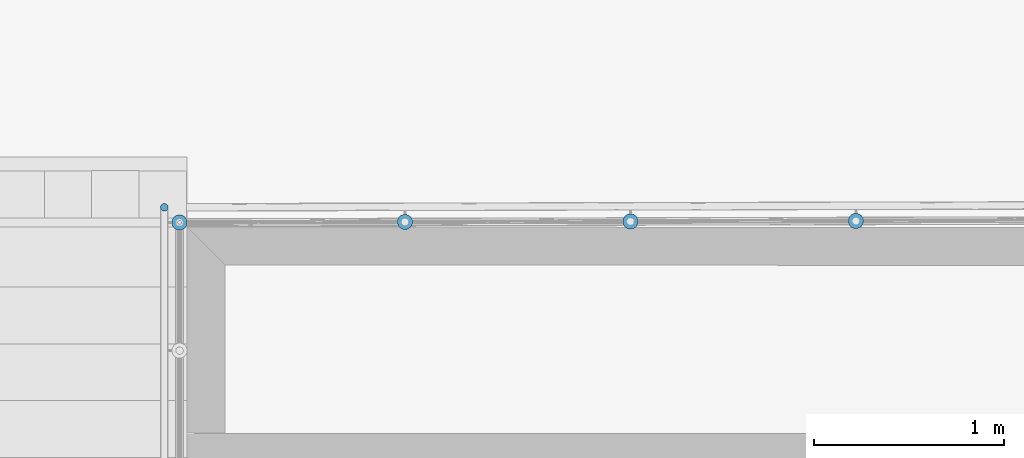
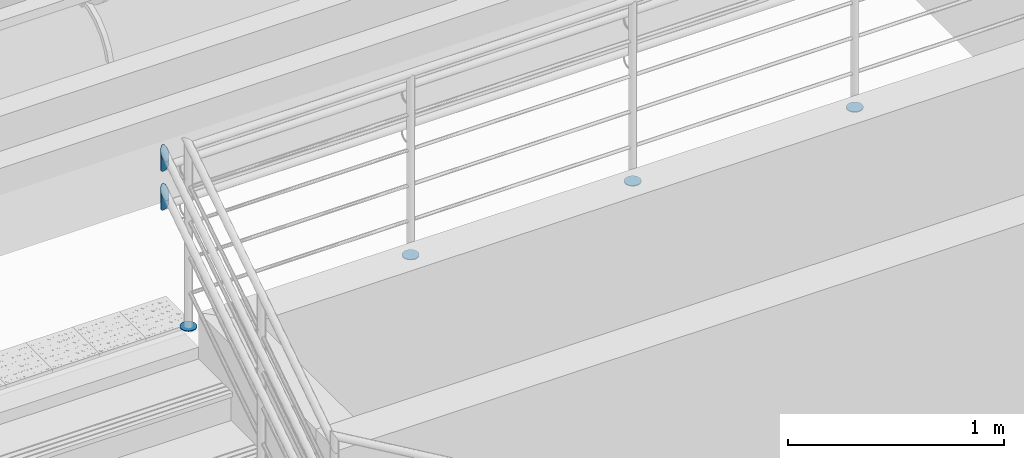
# One storey, part 125 of 237: 6 building element parts, 1 element without a shape of its own.
"""IFC2X3 building model written with IfcOpenShell, lengths in millimetres."""

from ifc_helpers import new_model, entity, si_unit, converted_unit, derived_unit, money_unit, direction, frame, origin_with_axes, place, context, subcontext, project, spatial, faceted_brep, material, type_object, element, aggregate, save


model = new_model("IFC2X3")

# Units and contexts
model_context = context("Model", 3, precision=0.01, world=origin_with_axes(), true_north=direction((0.0, 1.0)))
body_context = subcontext(model_context, "Body", "Model", "MODEL_VIEW")
ifc_project = project(units=[si_unit("LENGTHUNIT", "METRE", prefix="MILLI"), si_unit("AREAUNIT", "SQUARE_METRE"), si_unit("VOLUMEUNIT", "CUBIC_METRE"), converted_unit("PLANEANGLEUNIT", "DEGREE", entity("IfcPlaneAngleMeasure", 0.0174532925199), si_unit("PLANEANGLEUNIT", "RADIAN"), dimensions=[0, 0, 0, 0, 0, 0, 0]), money_unit("USD"), converted_unit("TIMEUNIT", "Year", entity("IfcTimeMeasure", 31556926.0), si_unit("TIMEUNIT", "SECOND"), dimensions=[0, 0, 1, 0, 0, 0, 0]), si_unit("MASSUNIT", "GRAM", prefix="KILO"), si_unit("THERMODYNAMICTEMPERATUREUNIT", "DEGREE_CELSIUS"), si_unit("LUMINOUSINTENSITYUNIT", "LUMEN"), si_unit("ENERGYUNIT", "JOULE", prefix="MEGA"), derived_unit("THERMALCONDUCTANCEUNIT", [(si_unit("POWERUNIT", "WATT"), 1), (si_unit("LENGTHUNIT", "METRE"), -1), (si_unit("THERMODYNAMICTEMPERATUREUNIT", "KELVIN"), -1)]), derived_unit("SPECIFICHEATCAPACITYUNIT", [(si_unit("ENERGYUNIT", "JOULE"), 1), (si_unit("MASSUNIT", "GRAM", prefix="KILO"), -1), (si_unit("THERMODYNAMICTEMPERATUREUNIT", "KELVIN"), -1)]), derived_unit("MASSDENSITYUNIT", [(si_unit("MASSUNIT", "GRAM", prefix="KILO"), 1), (si_unit("VOLUMEUNIT", "CUBIC_METRE"), -1)])], contexts=[model_context])

# Site, building, storey
site_placement = place(None, origin_with_axes())
site = spatial("IfcSite", under=ifc_project, at=site_placement, Name="Local", CompositionType="ELEMENT")
building_placement = place(site_placement, origin_with_axes())
building = spatial("IfcBuilding", under=site, at=building_placement, Name="Construção", CompositionType="ELEMENT")
storey_placement = place(building_placement, origin_with_axes())
storey = spatial("IfcBuildingStorey", under=building, at=storey_placement, Name="Pavimento Térreo", CompositionType="ELEMENT", Elevation=0.0)

# Railing, building element parts
railing_type = type_object("IfcRailingType", Name="Tipo de Guarda-Corpo", PredefinedType="NOTDEFINED")
railing_placement = place(storey_placement, frame((84562.8908804, 21657.2175927, -4868.39227091), z_axis=(0.0, 0.0, 1.0), x_axis=(1.0, 0.0, 0.0)))
railing = element("IfcRailing", 1, at=railing_placement, inside=storey, type_object=railing_type, Name="Guarda-Corpo - 002", PredefinedType="NOTDEFINED")
ifc_material_1 = material(Name="Alumínio")
building_element_part_1_placement = place(railing_placement, origin_with_axes())
building_element_part_1 = element("IfcBuildingElementPart", 2, at=building_element_part_1_placement, material=ifc_material_1, Name="Alumínio", context=body_context, shape_type="Brep", body=[
    faceted_brep([(-3833.93138467, 2066.86880841, 1374.42107865), (-3840.87731178, 2066.26111853, 1374.42107865), (-3840.87731178, 2066.26111853, 1379.42107865), (-3833.93138467, 2066.86880841, 1379.42107865), (-3826.98545757, 2066.26111853, 1374.42107865), (-3820.25057894, 2064.45651324, 1374.42107865), (-3813.93138467, 2061.50982456, 1374.42107865), (-3808.21988028, 2057.51058613, 1374.42107865), (-3803.28960695, 2052.58031279, 1374.42107865), (-3799.29036852, 2046.86880841, 1374.42107865), (-3796.34367984, 2040.54961414, 1374.42107865), (-3794.53907455, 2033.81473551, 1374.42107865), (-3793.93138467, 2026.86880841, 1374.42107865), (-3794.53907455, 2019.9228813, 1374.42107865), (-3796.34367984, 2013.18800267, 1374.42107865), (-3799.29036852, 2006.86880841, 1374.42107865), (-3803.28960695, 2001.15730402, 1374.42107865), (-3808.21988028, 1996.22703068, 1374.42107865), (-3813.93138467, 1992.22779226, 1374.42107865), (-3820.25057894, 1989.28110358, 1374.42107865), (-3826.98545757, 1987.47649829, 1374.42107865), (-3833.93138467, 1986.86880841, 1374.42107865), (-3840.87731178, 1987.47649829, 1374.42107865), (-3847.6121904, 1989.28110358, 1374.42107865), (-3853.93138467, 1992.22779226, 1374.42107865), (-3859.64288906, 1996.22703068, 1374.42107865), (-3864.5731624, 2001.15730402, 1374.42107865), (-3868.57240082, 2006.86880841, 1374.42107865), (-3871.5190895, 2013.18800267, 1374.42107865), (-3873.32369479, 2019.9228813, 1374.42107865), (-3873.93138467, 2026.86880841, 1374.42107865), (-3873.32369479, 2033.81473551, 1374.42107865), (-3871.5190895, 2040.54961414, 1374.42107865), (-3868.57240082, 2046.86880841, 1374.42107865), (-3864.5731624, 2052.58031279, 1374.42107865), (-3859.64288906, 2057.51058613, 1374.42107865), (-3853.93138467, 2061.50982456, 1374.42107865), (-3847.6121904, 2064.45651324, 1374.42107865), (-3847.6121904, 2064.45651324, 1379.42107865), (-3853.93138467, 2061.50982456, 1379.42107865), (-3859.64288906, 2057.51058613, 1379.42107865), (-3864.5731624, 2052.58031279, 1379.42107865), (-3868.57240082, 2046.86880841, 1379.42107865), (-3871.5190895, 2040.54961414, 1379.42107865), (-3873.32369479, 2033.81473551, 1379.42107865), (-3873.93138467, 2026.86880841, 1379.42107865), (-3873.32369479, 2019.9228813, 1379.42107865), (-3871.5190895, 2013.18800267, 1379.42107865), (-3868.57240082, 2006.86880841, 1379.42107865), (-3864.5731624, 2001.15730402, 1379.42107865), (-3859.64288906, 1996.22703068, 1379.42107865), (-3853.93138467, 1992.22779226, 1379.42107865), (-3847.6121904, 1989.28110358, 1379.42107865), (-3840.87731178, 1987.47649829, 1379.42107865), (-3833.93138467, 1986.86880841, 1379.42107865), (-3826.98545757, 1987.47649829, 1379.42107865), (-3820.25057894, 1989.28110358, 1379.42107865), (-3813.93138467, 1992.22779226, 1379.42107865), (-3808.21988028, 1996.22703068, 1379.42107865), (-3803.28960695, 2001.15730402, 1379.42107865), (-3799.29036852, 2006.86880841, 1379.42107865), (-3796.34367984, 2013.18800267, 1379.42107865), (-3794.53907455, 2019.9228813, 1379.42107865), (-3793.93138467, 2026.86880841, 1379.42107865), (-3794.53907455, 2033.81473551, 1379.42107865), (-3796.34367984, 2040.54961414, 1379.42107865), (-3799.29036852, 2046.86880841, 1379.42107865), (-3803.28960695, 2052.58031279, 1379.42107865), (-3808.21988028, 2057.51058613, 1379.42107865), (-3813.93138467, 2061.50982456, 1379.42107865), (-3820.25057894, 2064.45651324, 1379.42107865), (-3826.98545757, 2066.26111853, 1379.42107865)], [[[0, 1, 2, 3]], [[0, 4, 5, 6, 7, 8, 9, 10, 11, 12, 13, 14, 15, 16, 17, 18, 19, 20, 21, 22, 23, 24, 25, 26, 27, 28, 29, 30, 31, 32, 33, 34, 35, 36, 37, 1]], [[1, 37, 38, 2]], [[3, 2, 38, 39, 40, 41, 42, 43, 44, 45, 46, 47, 48, 49, 50, 51, 52, 53, 54, 55, 56, 57, 58, 59, 60, 61, 62, 63, 64, 65, 66, 67, 68, 69, 70, 71]], [[4, 0, 3, 71]], [[5, 4, 71, 70]], [[6, 5, 70, 69]], [[7, 6, 69, 68]], [[8, 7, 68, 67]], [[9, 8, 67, 66]], [[10, 9, 66, 65]], [[11, 10, 65, 64]], [[12, 11, 64, 63]], [[13, 12, 63, 62]], [[14, 13, 62, 61]], [[15, 14, 61, 60]], [[16, 15, 60, 59]], [[17, 16, 59, 58]], [[18, 17, 58, 57]], [[19, 18, 57, 56]], [[20, 19, 56, 55]], [[21, 20, 55, 54]], [[22, 21, 54, 53]], [[23, 22, 53, 52]], [[24, 23, 52, 51]], [[25, 24, 51, 50]], [[26, 25, 50, 49]], [[27, 26, 49, 48]], [[28, 27, 48, 47]], [[29, 28, 47, 46]], [[30, 29, 46, 45]], [[31, 30, 45, 44]], [[32, 31, 44, 43]], [[33, 32, 43, 42]], [[34, 33, 42, 41]], [[35, 34, 41, 40]], [[36, 35, 40, 39]], [[37, 36, 39, 38]]]),
])
ifc_material_2 = material(Name="Aço - Inoxidável")
building_element_part_2_placement = place(railing_placement, origin_with_axes())
building_element_part_2 = element("IfcBuildingElementPart", 3, at=building_element_part_2_placement, material=ifc_material_2, Name="Aço - Inoxidável", context=body_context, shape_type="Brep", body=[
    faceted_brep([(-3894.23522961, 2103.22144845, 2061.07060766), (-3893.93138467, 2106.69441201, 2061.38188453), (-3893.93138467, 2106.69441201, 2115.88387212), (-3894.23522961, 2103.22144845, 2109.45602414), (-3894.23522961, 2110.16737556, 2061.08575884), (-3895.13753226, 2099.85400914, 2060.1613862), (-3896.6108766, 2096.69441201, 2058.68184641), (-3898.61049581, 2093.83865981, 2056.67694334), (-3901.07563248, 2091.37352315, 2054.20759496), (-3903.93138467, 2089.37390393, 2051.34883118), (-3907.09098181, 2087.90055959, 2048.18751407), (-3910.45842112, 2086.99825695, 2044.81969867), (-3913.93138467, 2086.69441201, 2041.34771434), (-3917.40434823, 2086.99825695, 2037.87705556), (-3920.77178754, 2087.90055959, 2034.51317655), (-3923.93138467, 2089.37390393, 2031.35828707), (-3926.78713687, 2091.37352315, 2028.50824684), (-3929.25227353, 2093.83865981, 2026.04965289), (-3931.25189275, 2096.69441201, 2024.05720835), (-3932.72523709, 2099.85400914, 2022.59145265), (-3933.62753973, 2103.22144845, 2021.69692202), (-3933.93138467, 2106.69441201, 2021.40079632), (-3933.62753973, 2110.16737556, 2021.7120732), (-3932.72523709, 2113.53481487, 2022.62129465), (-3931.25189275, 2116.69441201, 2024.10083444), (-3929.25227353, 2119.5501642, 2026.10573751), (-3926.78713687, 2122.01530087, 2028.57508589), (-3923.93138467, 2124.01492008, 2031.43384968), (-3920.77178754, 2125.48826442, 2034.59516678), (-3917.40434823, 2126.39056707, 2037.96298218), (-3913.93138467, 2126.69441201, 2041.43496652), (-3910.45842112, 2126.39056707, 2044.90562529), (-3907.09098181, 2125.48826442, 2048.2695043), (-3903.93138467, 2124.01492008, 2051.42439378), (-3901.07563248, 2122.01530087, 2054.27443401), (-3898.61049581, 2119.5501642, 2056.73302796), (-3896.6108766, 2116.69441201, 2058.7254725), (-3895.13753226, 2113.53481487, 2060.19122821), (-3894.23522961, 2110.16737556, 2122.3117201), (-3931.25189275, 2116.69441201, 2134.39212274), (-3932.72523709, 2113.53481487, 2128.54426118), (-3933.62753973, 2110.16737556, 2122.3117201), (-3933.93138467, 2106.69441201, 2115.88387212), (-3933.62753973, 2103.22144845, 2109.45602414), (-3932.72523709, 2099.85400914, 2103.22348306), (-3931.25189275, 2096.69441201, 2097.3756215), (-3929.25227353, 2093.83865981, 2092.09012377), (-3926.78713687, 2091.37352315, 2087.52758704), (-3923.93138467, 2089.37390393, 2083.82664169), (-3920.77178754, 2087.90055959, 2081.09973906), (-3917.40434823, 2086.99825695, 2079.42973471), (-3913.93138467, 2086.69441201, 2078.86737088), (-3910.45842112, 2086.99825695, 2079.42973471), (-3907.09098181, 2087.90055959, 2081.09973906), (-3903.93138467, 2089.37390393, 2083.82664169), (-3901.07563248, 2091.37352315, 2087.52758704), (-3898.61049581, 2093.83865981, 2092.09012377), (-3896.6108766, 2096.69441201, 2097.3756215), (-3895.13753226, 2099.85400914, 2103.22348306), (-3895.13753226, 2113.53481487, 2128.54426118), (-3896.6108766, 2116.69441201, 2134.39212274), (-3898.61049581, 2119.5501642, 2139.67762047), (-3901.07563248, 2122.01530087, 2144.2401572), (-3903.93138467, 2124.01492008, 2147.94110255), (-3907.09098181, 2125.48826442, 2150.66800518), (-3910.45842112, 2126.39056707, 2152.33800953), (-3913.93138467, 2126.69441201, 2152.90037336), (-3917.40434823, 2126.39056707, 2152.33800953), (-3920.77178754, 2125.48826442, 2150.66800518), (-3923.93138467, 2124.01492008, 2147.94110255), (-3926.78713687, 2122.01530087, 2144.2401572), (-3929.25227353, 2119.5501642, 2139.67762047)], [[[0, 1, 2, 3]], [[4, 1, 0, 5, 6, 7, 8, 9, 10, 11, 12, 13, 14, 15, 16, 17, 18, 19, 20, 21, 22, 23, 24, 25, 26, 27, 28, 29, 30, 31, 32, 33, 34, 35, 36, 37]], [[1, 4, 38, 2]], [[39, 40, 41, 42, 43, 44, 45, 46, 47, 48, 49, 50, 51, 52, 53, 54, 55, 56, 57, 58, 3, 2, 38, 59, 60, 61, 62, 63, 64, 65, 66, 67, 68, 69, 70, 71]], [[5, 0, 3, 58]], [[6, 5, 58, 57]], [[7, 6, 57, 56]], [[8, 7, 56, 55]], [[9, 8, 55, 54]], [[10, 9, 54, 53]], [[11, 10, 53, 52]], [[12, 11, 52, 51]], [[13, 12, 51, 50]], [[14, 13, 50, 49]], [[15, 14, 49, 48]], [[16, 15, 48, 47]], [[17, 16, 47, 46]], [[18, 17, 46, 45]], [[19, 18, 45, 44]], [[20, 19, 44, 43]], [[21, 20, 43, 42]], [[22, 21, 42, 41]], [[23, 22, 41, 40]], [[24, 23, 40, 39]], [[25, 24, 39, 71]], [[26, 25, 71, 70]], [[27, 26, 70, 69]], [[28, 27, 69, 68]], [[29, 28, 68, 67]], [[30, 29, 67, 66]], [[31, 30, 66, 65]], [[32, 31, 65, 64]], [[33, 32, 64, 63]], [[34, 33, 63, 62]], [[35, 34, 62, 61]], [[36, 35, 61, 60]], [[37, 36, 60, 59]], [[4, 37, 59, 38]]]),
])
building_element_part_3_placement = place(railing_placement, origin_with_axes())
building_element_part_3 = element("IfcBuildingElementPart", 4, at=building_element_part_3_placement, material=ifc_material_2, Name="Aço - Inoxidável", context=body_context, shape_type="Brep", body=[
    faceted_brep([(-3894.23522961, 2103.22144845, 2281.07060766), (-3893.93138467, 2106.69441201, 2281.38188453), (-3893.93138467, 2106.69441201, 2335.88387212), (-3894.23522961, 2103.22144845, 2329.45602414), (-3894.23522961, 2110.16737556, 2281.08575884), (-3895.13753226, 2099.85400914, 2280.1613862), (-3896.6108766, 2096.69441201, 2278.68184641), (-3898.61049581, 2093.83865981, 2276.67694334), (-3901.07563248, 2091.37352315, 2274.20759496), (-3903.93138467, 2089.37390393, 2271.34883118), (-3907.09098181, 2087.90055959, 2268.18751407), (-3910.45842112, 2086.99825695, 2264.81969867), (-3913.93138467, 2086.69441201, 2261.34771434), (-3917.40434823, 2086.99825695, 2257.87705556), (-3920.77178754, 2087.90055959, 2254.51317655), (-3923.93138467, 2089.37390393, 2251.35828707), (-3926.78713687, 2091.37352315, 2248.50824684), (-3929.25227353, 2093.83865981, 2246.04965289), (-3931.25189275, 2096.69441201, 2244.05720835), (-3932.72523709, 2099.85400914, 2242.59145265), (-3933.62753973, 2103.22144845, 2241.69692202), (-3933.93138467, 2106.69441201, 2241.40079632), (-3933.62753973, 2110.16737556, 2241.7120732), (-3932.72523709, 2113.53481487, 2242.62129465), (-3931.25189275, 2116.69441201, 2244.10083444), (-3929.25227353, 2119.5501642, 2246.10573751), (-3926.78713687, 2122.01530087, 2248.57508589), (-3923.93138467, 2124.01492008, 2251.43384968), (-3920.77178754, 2125.48826442, 2254.59516678), (-3917.40434823, 2126.39056707, 2257.96298218), (-3913.93138467, 2126.69441201, 2261.43496652), (-3910.45842112, 2126.39056707, 2264.90562529), (-3907.09098181, 2125.48826442, 2268.2695043), (-3903.93138467, 2124.01492008, 2271.42439378), (-3901.07563248, 2122.01530087, 2274.27443401), (-3898.61049581, 2119.5501642, 2276.73302796), (-3896.6108766, 2116.69441201, 2278.7254725), (-3895.13753226, 2113.53481487, 2280.19122821), (-3894.23522961, 2110.16737556, 2342.3117201), (-3931.25189275, 2116.69441201, 2354.39212274), (-3932.72523709, 2113.53481487, 2348.54426118), (-3933.62753973, 2110.16737556, 2342.3117201), (-3933.93138467, 2106.69441201, 2335.88387212), (-3933.62753973, 2103.22144845, 2329.45602414), (-3932.72523709, 2099.85400914, 2323.22348306), (-3931.25189275, 2096.69441201, 2317.3756215), (-3929.25227353, 2093.83865981, 2312.09012377), (-3926.78713687, 2091.37352315, 2307.52758704), (-3923.93138467, 2089.37390393, 2303.82664169), (-3920.77178754, 2087.90055959, 2301.09973906), (-3917.40434823, 2086.99825695, 2299.42973471), (-3913.93138467, 2086.69441201, 2298.86737088), (-3910.45842112, 2086.99825695, 2299.42973471), (-3907.09098181, 2087.90055959, 2301.09973906), (-3903.93138467, 2089.37390393, 2303.82664169), (-3901.07563248, 2091.37352315, 2307.52758704), (-3898.61049581, 2093.83865981, 2312.09012377), (-3896.6108766, 2096.69441201, 2317.3756215), (-3895.13753226, 2099.85400914, 2323.22348306), (-3895.13753226, 2113.53481487, 2348.54426118), (-3896.6108766, 2116.69441201, 2354.39212274), (-3898.61049581, 2119.5501642, 2359.67762047), (-3901.07563248, 2122.01530087, 2364.2401572), (-3903.93138467, 2124.01492008, 2367.94110255), (-3907.09098181, 2125.48826442, 2370.66800518), (-3910.45842112, 2126.39056707, 2372.33800953), (-3913.93138467, 2126.69441201, 2372.90037336), (-3917.40434823, 2126.39056707, 2372.33800953), (-3920.77178754, 2125.48826442, 2370.66800518), (-3923.93138467, 2124.01492008, 2367.94110255), (-3926.78713687, 2122.01530087, 2364.2401572), (-3929.25227353, 2119.5501642, 2359.67762047)], [[[0, 1, 2, 3]], [[4, 1, 0, 5, 6, 7, 8, 9, 10, 11, 12, 13, 14, 15, 16, 17, 18, 19, 20, 21, 22, 23, 24, 25, 26, 27, 28, 29, 30, 31, 32, 33, 34, 35, 36, 37]], [[1, 4, 38, 2]], [[39, 40, 41, 42, 43, 44, 45, 46, 47, 48, 49, 50, 51, 52, 53, 54, 55, 56, 57, 58, 3, 2, 38, 59, 60, 61, 62, 63, 64, 65, 66, 67, 68, 69, 70, 71]], [[5, 0, 3, 58]], [[6, 5, 58, 57]], [[7, 6, 57, 56]], [[8, 7, 56, 55]], [[9, 8, 55, 54]], [[10, 9, 54, 53]], [[11, 10, 53, 52]], [[12, 11, 52, 51]], [[13, 12, 51, 50]], [[14, 13, 50, 49]], [[15, 14, 49, 48]], [[16, 15, 48, 47]], [[17, 16, 47, 46]], [[18, 17, 46, 45]], [[19, 18, 45, 44]], [[20, 19, 44, 43]], [[21, 20, 43, 42]], [[22, 21, 42, 41]], [[23, 22, 41, 40]], [[24, 23, 40, 39]], [[25, 24, 39, 71]], [[26, 25, 71, 70]], [[27, 26, 70, 69]], [[28, 27, 69, 68]], [[29, 28, 68, 67]], [[30, 29, 67, 66]], [[31, 30, 66, 65]], [[32, 31, 65, 64]], [[33, 32, 64, 63]], [[34, 33, 63, 62]], [[35, 34, 62, 61]], [[36, 35, 61, 60]], [[37, 36, 60, 59]], [[4, 37, 59, 38]]]),
])
building_element_part_4_placement = place(railing_placement, origin_with_axes())
building_element_part_4 = element("IfcBuildingElementPart", 5, at=building_element_part_4_placement, material=ifc_material_1, Name="Alumínio", context=body_context, shape_type="Brep", body=[
    faceted_brep([(-2605.04516916, 2029.55065138, 1360.79438018), (-2605.6680159, 2036.49523577, 1360.79438018), (-2605.6680159, 2036.49523577, 1365.79438018), (-2605.04516916, 2029.55065138, 1365.79438018), (-2605.63769928, 2022.60341464, 1360.79438018), (-2607.42760254, 2015.8646138, 1360.79438018), (-2610.36049362, 2009.53900393, 1360.79438018), (-2614.34725813, 2003.81878548, 1360.79438018), (-2619.26676024, 1998.8777644, 1360.79438018), (-2624.96952337, 1994.8660711, 1360.79438018), (-2631.28227194, 1991.90559886, 1360.79438018), (-2638.01319628, 1990.08630014, 1360.79438018), (-2644.95778066, 1989.46345339, 1360.79438018), (-2651.90501741, 1990.05598351, 1360.79438018), (-2658.64381825, 1991.84588677, 1360.79438018), (-2664.96942812, 1994.77877786, 1360.79438018), (-2670.68964656, 1998.76554237, 1360.79438018), (-2675.63066765, 2003.68504448, 1360.79438018), (-2679.64236095, 2009.3878076, 1360.79438018), (-2682.60283318, 2015.70055617, 1360.79438018), (-2684.42213191, 2022.43148051, 1360.79438018), (-2685.04497866, 2029.3760649, 1360.79438018), (-2684.45244854, 2036.32330164, 1360.79438018), (-2682.66254528, 2043.06210248, 1360.79438018), (-2679.72965419, 2049.38771235, 1360.79438018), (-2675.74288968, 2055.1079308, 1360.79438018), (-2670.82338757, 2060.04895188, 1360.79438018), (-2665.12062445, 2064.06064518, 1360.79438018), (-2658.80787588, 2067.02111742, 1360.79438018), (-2652.07695154, 2068.84041614, 1360.79438018), (-2645.13236715, 2069.46326289, 1360.79438018), (-2638.1851304, 2068.87073277, 1360.79438018), (-2631.44632957, 2067.08082951, 1360.79438018), (-2625.1207197, 2064.14793842, 1360.79438018), (-2619.40050125, 2060.16117391, 1360.79438018), (-2614.45948016, 2055.24167181, 1360.79438018), (-2610.44778687, 2049.53890868, 1360.79438018), (-2607.48731463, 2043.22616011, 1360.79438018), (-2607.48731463, 2043.22616011, 1365.79438018), (-2610.44778687, 2049.53890868, 1365.79438018), (-2614.45948016, 2055.24167181, 1365.79438018), (-2619.40050125, 2060.16117391, 1365.79438018), (-2625.1207197, 2064.14793842, 1365.79438018), (-2631.44632957, 2067.08082951, 1365.79438018), (-2638.1851304, 2068.87073277, 1365.79438018), (-2645.13236715, 2069.46326289, 1365.79438018), (-2652.07695154, 2068.84041614, 1365.79438018), (-2658.80787588, 2067.02111742, 1365.79438018), (-2665.12062445, 2064.06064518, 1365.79438018), (-2670.82338757, 2060.04895188, 1365.79438018), (-2675.74288968, 2055.1079308, 1365.79438018), (-2679.72965419, 2049.38771235, 1365.79438018), (-2682.66254528, 2043.06210248, 1365.79438018), (-2684.45244854, 2036.32330164, 1365.79438018), (-2685.04497866, 2029.3760649, 1365.79438018), (-2684.42213191, 2022.43148051, 1365.79438018), (-2682.60283318, 2015.70055617, 1365.79438018), (-2679.64236095, 2009.3878076, 1365.79438018), (-2675.63066765, 2003.68504448, 1365.79438018), (-2670.68964656, 1998.76554237, 1365.79438018), (-2664.96942812, 1994.77877786, 1365.79438018), (-2658.64381825, 1991.84588677, 1365.79438018), (-2651.90501741, 1990.05598351, 1365.79438018), (-2644.95778066, 1989.46345339, 1365.79438018), (-2638.01319628, 1990.08630014, 1365.79438018), (-2631.28227194, 1991.90559886, 1365.79438018), (-2624.96952337, 1994.8660711, 1365.79438018), (-2619.26676024, 1998.8777644, 1365.79438018), (-2614.34725813, 2003.81878548, 1365.79438018), (-2610.36049362, 2009.53900393, 1365.79438018), (-2607.42760254, 2015.8646138, 1365.79438018), (-2605.63769928, 2022.60341464, 1365.79438018)], [[[0, 1, 2, 3]], [[0, 4, 5, 6, 7, 8, 9, 10, 11, 12, 13, 14, 15, 16, 17, 18, 19, 20, 21, 22, 23, 24, 25, 26, 27, 28, 29, 30, 31, 32, 33, 34, 35, 36, 37, 1]], [[1, 37, 38, 2]], [[3, 2, 38, 39, 40, 41, 42, 43, 44, 45, 46, 47, 48, 49, 50, 51, 52, 53, 54, 55, 56, 57, 58, 59, 60, 61, 62, 63, 64, 65, 66, 67, 68, 69, 70, 71]], [[4, 0, 3, 71]], [[5, 4, 71, 70]], [[6, 5, 70, 69]], [[7, 6, 69, 68]], [[8, 7, 68, 67]], [[9, 8, 67, 66]], [[10, 9, 66, 65]], [[11, 10, 65, 64]], [[12, 11, 64, 63]], [[13, 12, 63, 62]], [[14, 13, 62, 61]], [[15, 14, 61, 60]], [[16, 15, 60, 59]], [[17, 16, 59, 58]], [[18, 17, 58, 57]], [[19, 18, 57, 56]], [[20, 19, 56, 55]], [[21, 20, 55, 54]], [[22, 21, 54, 53]], [[23, 22, 53, 52]], [[24, 23, 52, 51]], [[25, 24, 51, 50]], [[26, 25, 50, 49]], [[27, 26, 49, 48]], [[28, 27, 48, 47]], [[29, 28, 47, 46]], [[30, 29, 46, 45]], [[31, 30, 45, 44]], [[32, 31, 44, 43]], [[33, 32, 43, 42]], [[34, 33, 42, 41]], [[35, 34, 41, 40]], [[36, 35, 40, 39]], [[37, 36, 39, 38]]]),
])
building_element_part_5_placement = place(railing_placement, origin_with_axes())
building_element_part_5 = element("IfcBuildingElementPart", 6, at=building_element_part_5_placement, material=ifc_material_1, Name="Alumínio", context=body_context, shape_type="Brep", body=[
    faceted_brep([(-1416.15885839, 2032.14520112, 1360.23497769), (-1416.78170514, 2039.0897855, 1360.23497769), (-1416.78170514, 2039.0897855, 1365.23497769), (-1416.15885839, 2032.14520112, 1365.23497769), (-1416.75138851, 2025.19796437, 1360.23497769), (-1418.54129177, 2018.45916354, 1360.23497769), (-1421.47418286, 2012.13355367, 1360.23497769), (-1425.46094737, 2006.41333522, 1360.23497769), (-1430.38044948, 2001.47231413, 1360.23497769), (-1436.0832126, 1997.46062083, 1360.23497769), (-1442.39596117, 1994.5001486, 1360.23497769), (-1449.12688551, 1992.68084987, 1360.23497769), (-1456.0714699, 1992.05800313, 1360.23497769), (-1463.01870665, 1992.65053325, 1360.23497769), (-1469.75750748, 1994.4404365, 1360.23497769), (-1476.08311735, 1997.37332759, 1360.23497769), (-1481.8033358, 2001.3600921, 1360.23497769), (-1486.74435689, 2006.27959421, 1360.23497769), (-1490.75605018, 2011.98235733, 1360.23497769), (-1493.71652242, 2018.2951059, 1360.23497769), (-1495.53582115, 2025.02603024, 1360.23497769), (-1496.15866789, 2031.97061463, 1360.23497769), (-1495.56613777, 2038.91785138, 1360.23497769), (-1493.77623451, 2045.65665221, 1360.23497769), (-1490.84334343, 2051.98226208, 1360.23497769), (-1486.85657892, 2057.70248053, 1360.23497769), (-1481.93707681, 2062.64350162, 1360.23497769), (-1476.23431368, 2066.65519491, 1360.23497769), (-1469.92156511, 2069.61566715, 1360.23497769), (-1463.19064077, 2071.43496588, 1360.23497769), (-1456.24605639, 2072.05781262, 1360.23497769), (-1449.29881964, 2071.4652825, 1360.23497769), (-1442.5600188, 2069.67537925, 1360.23497769), (-1436.23440893, 2066.74248816, 1360.23497769), (-1430.51419049, 2062.75572365, 1360.23497769), (-1425.5731694, 2057.83622154, 1360.23497769), (-1421.5614761, 2052.13345841, 1360.23497769), (-1418.60100387, 2045.82070985, 1360.23497769), (-1418.60100387, 2045.82070985, 1365.23497769), (-1421.5614761, 2052.13345841, 1365.23497769), (-1425.5731694, 2057.83622154, 1365.23497769), (-1430.51419049, 2062.75572365, 1365.23497769), (-1436.23440893, 2066.74248816, 1365.23497769), (-1442.5600188, 2069.67537925, 1365.23497769), (-1449.29881964, 2071.4652825, 1365.23497769), (-1456.24605639, 2072.05781262, 1365.23497769), (-1463.19064077, 2071.43496588, 1365.23497769), (-1469.92156511, 2069.61566715, 1365.23497769), (-1476.23431368, 2066.65519491, 1365.23497769), (-1481.93707681, 2062.64350162, 1365.23497769), (-1486.85657892, 2057.70248053, 1365.23497769), (-1490.84334343, 2051.98226208, 1365.23497769), (-1493.77623451, 2045.65665221, 1365.23497769), (-1495.56613777, 2038.91785138, 1365.23497769), (-1496.15866789, 2031.97061463, 1365.23497769), (-1495.53582115, 2025.02603024, 1365.23497769), (-1493.71652242, 2018.2951059, 1365.23497769), (-1490.75605018, 2011.98235733, 1365.23497769), (-1486.74435689, 2006.27959421, 1365.23497769), (-1481.8033358, 2001.3600921, 1365.23497769), (-1476.08311735, 1997.37332759, 1365.23497769), (-1469.75750748, 1994.4404365, 1365.23497769), (-1463.01870665, 1992.65053325, 1365.23497769), (-1456.0714699, 1992.05800313, 1365.23497769), (-1449.12688551, 1992.68084987, 1365.23497769), (-1442.39596117, 1994.5001486, 1365.23497769), (-1436.0832126, 1997.46062083, 1365.23497769), (-1430.38044948, 2001.47231413, 1365.23497769), (-1425.46094737, 2006.41333522, 1365.23497769), (-1421.47418286, 2012.13355367, 1365.23497769), (-1418.54129177, 2018.45916354, 1365.23497769), (-1416.75138851, 2025.19796437, 1365.23497769)], [[[0, 1, 2, 3]], [[0, 4, 5, 6, 7, 8, 9, 10, 11, 12, 13, 14, 15, 16, 17, 18, 19, 20, 21, 22, 23, 24, 25, 26, 27, 28, 29, 30, 31, 32, 33, 34, 35, 36, 37, 1]], [[1, 37, 38, 2]], [[3, 2, 38, 39, 40, 41, 42, 43, 44, 45, 46, 47, 48, 49, 50, 51, 52, 53, 54, 55, 56, 57, 58, 59, 60, 61, 62, 63, 64, 65, 66, 67, 68, 69, 70, 71]], [[4, 0, 3, 71]], [[5, 4, 71, 70]], [[6, 5, 70, 69]], [[7, 6, 69, 68]], [[8, 7, 68, 67]], [[9, 8, 67, 66]], [[10, 9, 66, 65]], [[11, 10, 65, 64]], [[12, 11, 64, 63]], [[13, 12, 63, 62]], [[14, 13, 62, 61]], [[15, 14, 61, 60]], [[16, 15, 60, 59]], [[17, 16, 59, 58]], [[18, 17, 58, 57]], [[19, 18, 57, 56]], [[20, 19, 56, 55]], [[21, 20, 55, 54]], [[22, 21, 54, 53]], [[23, 22, 53, 52]], [[24, 23, 52, 51]], [[25, 24, 51, 50]], [[26, 25, 50, 49]], [[27, 26, 49, 48]], [[28, 27, 48, 47]], [[29, 28, 47, 46]], [[30, 29, 46, 45]], [[31, 30, 45, 44]], [[32, 31, 44, 43]], [[33, 32, 43, 42]], [[34, 33, 42, 41]], [[35, 34, 41, 40]], [[36, 35, 40, 39]], [[37, 36, 39, 38]]]),
])
building_element_part_6_placement = place(railing_placement, origin_with_axes())
building_element_part_6 = element("IfcBuildingElementPart", 7, at=building_element_part_6_placement, material=ifc_material_1, Name="Alumínio", context=body_context, shape_type="Brep", body=[
    faceted_brep([(-227.27254763, 2034.73975085, 1359.67557519), (-227.895394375, 2041.68433524, 1359.67557519), (-227.895394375, 2041.68433524, 1364.67557519), (-227.27254763, 2034.73975085, 1364.67557519), (-227.865077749, 2027.7925141, 1359.67557519), (-229.654981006, 2021.05371327, 1359.67557519), (-232.587872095, 2014.7281034, 1359.67557519), (-236.574636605, 2009.00788495, 1359.67557519), (-241.494138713, 2004.06686386, 1359.67557519), (-247.196901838, 2000.05517057, 1359.67557519), (-253.509650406, 1997.09469833, 1359.67557519), (-260.240574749, 1995.2753996, 1359.67557519), (-267.185159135, 1994.65255286, 1359.67557519), (-274.132395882, 1995.24508298, 1359.67557519), (-280.871196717, 1997.03498624, 1359.67557519), (-287.196806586, 1999.96787732, 1359.67557519), (-292.917025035, 2003.95464183, 1359.67557519), (-297.858046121, 2008.87414394, 1359.67557519), (-301.869739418, 2014.57690707, 1359.67557519), (-304.830211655, 2020.88965564, 1359.67557519), (-306.649510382, 2027.62057998, 1359.67557519), (-307.272357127, 2034.56516436, 1359.67557519), (-306.679827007, 2041.51240111, 1359.67557519), (-304.88992375, 2048.25120195, 1359.67557519), (-301.957032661, 2054.57681182, 1359.67557519), (-297.970268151, 2060.29703026, 1359.67557519), (-293.050766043, 2065.23805135, 1359.67557519), (-287.348002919, 2069.24974465, 1359.67557519), (-281.03525435, 2072.21021688, 1359.67557519), (-274.304330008, 2074.02951561, 1359.67557519), (-267.359745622, 2074.65236236, 1359.67557519), (-260.412508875, 2074.05983224, 1359.67557519), (-253.67370804, 2072.26992898, 1359.67557519), (-247.34809817, 2069.33703789, 1359.67557519), (-241.627879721, 2065.35027338, 1359.67557519), (-236.686858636, 2060.43077127, 1359.67557519), (-232.675165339, 2054.72800815, 1359.67557519), (-229.714693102, 2048.41525958, 1359.67557519), (-229.714693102, 2048.41525958, 1364.67557519), (-232.675165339, 2054.72800815, 1364.67557519), (-236.686858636, 2060.43077127, 1364.67557519), (-241.627879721, 2065.35027338, 1364.67557519), (-247.34809817, 2069.33703789, 1364.67557519), (-253.67370804, 2072.26992898, 1364.67557519), (-260.412508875, 2074.05983224, 1364.67557519), (-267.359745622, 2074.65236236, 1364.67557519), (-274.304330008, 2074.02951561, 1364.67557519), (-281.03525435, 2072.21021688, 1364.67557519), (-287.348002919, 2069.24974465, 1364.67557519), (-293.050766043, 2065.23805135, 1364.67557519), (-297.970268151, 2060.29703026, 1364.67557519), (-301.957032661, 2054.57681182, 1364.67557519), (-304.88992375, 2048.25120195, 1364.67557519), (-306.679827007, 2041.51240111, 1364.67557519), (-307.272357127, 2034.56516436, 1364.67557519), (-306.649510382, 2027.62057998, 1364.67557519), (-304.830211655, 2020.88965564, 1364.67557519), (-301.869739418, 2014.57690707, 1364.67557519), (-297.858046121, 2008.87414394, 1364.67557519), (-292.917025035, 2003.95464183, 1364.67557519), (-287.196806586, 1999.96787732, 1364.67557519), (-280.871196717, 1997.03498624, 1364.67557519), (-274.132395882, 1995.24508298, 1364.67557519), (-267.185159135, 1994.65255286, 1364.67557519), (-260.240574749, 1995.2753996, 1364.67557519), (-253.509650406, 1997.09469833, 1364.67557519), (-247.196901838, 2000.05517057, 1364.67557519), (-241.494138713, 2004.06686386, 1364.67557519), (-236.574636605, 2009.00788495, 1364.67557519), (-232.587872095, 2014.7281034, 1364.67557519), (-229.654981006, 2021.05371327, 1364.67557519), (-227.865077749, 2027.7925141, 1364.67557519)], [[[0, 1, 2, 3]], [[0, 4, 5, 6, 7, 8, 9, 10, 11, 12, 13, 14, 15, 16, 17, 18, 19, 20, 21, 22, 23, 24, 25, 26, 27, 28, 29, 30, 31, 32, 33, 34, 35, 36, 37, 1]], [[1, 37, 38, 2]], [[3, 2, 38, 39, 40, 41, 42, 43, 44, 45, 46, 47, 48, 49, 50, 51, 52, 53, 54, 55, 56, 57, 58, 59, 60, 61, 62, 63, 64, 65, 66, 67, 68, 69, 70, 71]], [[4, 0, 3, 71]], [[5, 4, 71, 70]], [[6, 5, 70, 69]], [[7, 6, 69, 68]], [[8, 7, 68, 67]], [[9, 8, 67, 66]], [[10, 9, 66, 65]], [[11, 10, 65, 64]], [[12, 11, 64, 63]], [[13, 12, 63, 62]], [[14, 13, 62, 61]], [[15, 14, 61, 60]], [[16, 15, 60, 59]], [[17, 16, 59, 58]], [[18, 17, 58, 57]], [[19, 18, 57, 56]], [[20, 19, 56, 55]], [[21, 20, 55, 54]], [[22, 21, 54, 53]], [[23, 22, 53, 52]], [[24, 23, 52, 51]], [[25, 24, 51, 50]], [[26, 25, 50, 49]], [[27, 26, 49, 48]], [[28, 27, 48, 47]], [[29, 28, 47, 46]], [[30, 29, 46, 45]], [[31, 30, 45, 44]], [[32, 31, 44, 43]], [[33, 32, 43, 42]], [[34, 33, 42, 41]], [[35, 34, 41, 40]], [[36, 35, 40, 39]], [[37, 36, 39, 38]]]),
])
aggregate(railing, [building_element_part_1, building_element_part_2, building_element_part_3, building_element_part_4, building_element_part_5, building_element_part_6])

save(model, "model.ifc")
